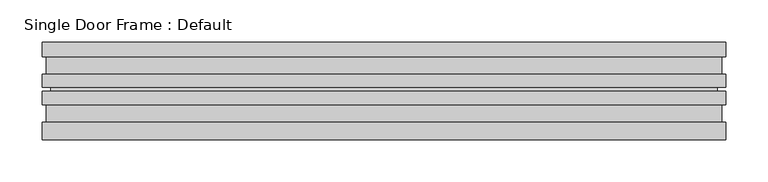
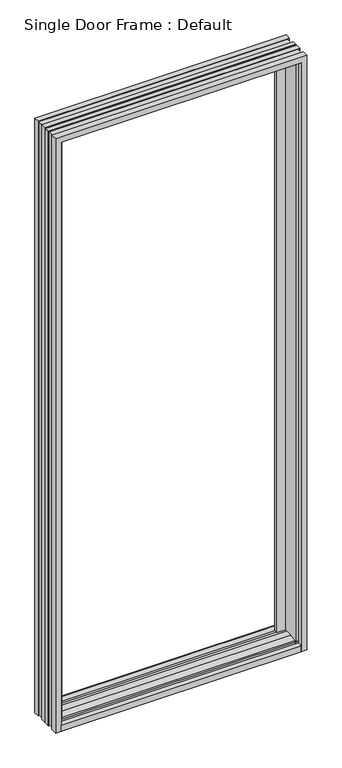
"""IFC4 building model written with IfcOpenShell, lengths in millimetres: proxy geometry, Single Door Frame : Default."""

from ifc_helpers import new_model, si_unit, frame, origin, place, context, project, spatial, polyline, circle_curve, ellipse_curve, outline, extrude, source, transform, mapped, element, save
from ifc_brep_helpers import plane_surface, revolved_surface, advanced_brep


def single_door_frame_default_a77f339c(model_context):
    return source(origin(), model_context, "Body", "SolidModel", [
        extrude(outline(polyline([(114.3, 28.575), (114.3, 0.0), (0.0, 0.0), (0.0, 20.6375), (14.2875, 22.225), (14.2875, 28.575), (19.05, 30.1625), (41.275, 34.925), (65.0875, 34.925), (73.025, 36.5125), (80.9625, 36.5125), (103.1875, 34.925), (114.3, 28.575)])), frame((-387.35, 0.0, 0.0), z_axis=(1.0, 0.0, 0.0), x_axis=(0.0, 1.0, 0.0)), (0.0, 0.0, 1.0), 774.7),
        advanced_brep(
        [(-387.35, 0.0, 0.0), (-406.4, 0.0, 0.0), (-406.4, 20.6375, 0.0), (-405.209375, 20.6375, 0.0), (-403.621875, 17.4625, 0.0), (-401.6375, 17.4625, 0.0), (-401.6375, 44.45, 0.0), (-403.621875, 44.45, 0.0), (-405.209375, 41.275, 0.0), (-406.4, 41.275, 0.0), (-406.4, 57.15, 0.0), (-404.8125, 57.15, 0.0), (-404.8125, 61.9125, 0.0), (-406.4, 61.9125, 0.0), (-406.4, 77.7875, 0.0), (-405.209375, 77.7875, 0.0), (-403.621875, 74.6125, 0.0), (-401.6375, 74.6125, 0.0), (-401.6375, 101.6, 0.0), (-403.621875, 101.6, 0.0), (-405.209375, 98.425, 0.0), (-406.4, 98.425, 0.0), (-406.4, 115.8875, 0.0), (-377.825, 115.8875, 0.0), (-377.825, 82.55, 0.0), (-349.25, 82.55, 0.0), (-349.25, 69.85, 0.0), (-377.825, 69.85, 0.0), (-377.825, 14.2875, 0.0), (-387.35, 14.2875, 0.0), (-387.35, 0.0, 2012.95), (387.35, 0.0, 2012.95), (387.35, 0.0, 0.0), (406.4, 0.0, 0.0), (406.4, 0.0, 2032.0), (-406.4, 0.0, 2032.0), (-406.4, 115.8875, 2032.0), (406.4, 115.8875, 2032.0), (406.4, 115.8875, 0.0), (377.825, 115.8875, 0.0), (377.825, 115.8875, 2003.425), (-377.825, 115.8875, 2003.425), (-377.825, 82.55, 2003.425), (377.825, 82.55, 2003.425), (377.825, 82.55, 0.0), (349.25, 82.55, 0.0), (349.25, 82.55, 1974.85), (-349.25, 82.55, 1974.85), (-349.25, 69.85, 1974.85), (349.25, 69.85, 1974.85), (349.25, 69.85, 0.0), (377.825, 69.85, 0.0), (377.825, 69.85, 2003.425), (-377.825, 69.85, 2003.425), (-377.825, 14.2875, 2003.425), (377.825, 14.2875, 2003.425), (377.825, 14.2875, 0.0), (387.35, 14.2875, 0.0), (387.35, 14.2875, 2012.95), (-387.35, 14.2875, 2012.95), (406.4, 98.425, 0.0), (405.209375, 98.425, 0.0), (403.621875, 101.6, 0.0), (401.6375, 101.6, 0.0), (401.6375, 74.6125, 0.0), (403.621875, 74.6125, 0.0), (405.209375, 77.7875, 0.0), (406.4, 77.7875, 0.0), (406.4, 61.9125, 0.0), (404.8125, 61.9125, 0.0), (404.8125, 57.15, 0.0), (406.4, 57.15, 0.0), (406.4, 41.275, 0.0), (405.209375, 41.275, 0.0), (403.621875, 44.45, 0.0), (401.6375, 44.45, 0.0), (401.6375, 17.4625, 0.0), (403.621875, 17.4625, 0.0), (405.209375, 20.6375, 0.0), (406.4, 20.6375, 0.0), (-406.4, 20.6375, 2032.0), (406.4, 20.6375, 2032.0), (405.209375, 20.6375, 2030.809375), (-405.209375, 20.6375, 2030.809375), (-403.621875, 17.4625, 2029.221875), (403.621875, 17.4625, 2029.221875), (401.6375, 17.4625, 2027.2375), (-401.6375, 17.4625, 2027.2375), (-401.6375, 44.45, 2027.2375), (401.6375, 44.45, 2027.2375), (403.621875, 44.45, 2029.221875), (-403.621875, 44.45, 2029.221875), (-405.209375, 41.275, 2030.809375), (405.209375, 41.275, 2030.809375), (406.4, 41.275, 2032.0), (-406.4, 41.275, 2032.0), (-406.4, 57.15, 2032.0), (406.4, 57.15, 2032.0), (404.8125, 57.15, 2030.4125), (-404.8125, 57.15, 2030.4125), (-404.8125, 61.9125, 2030.4125), (404.8125, 61.9125, 2030.4125), (406.4, 61.9125, 2032.0), (-406.4, 61.9125, 2032.0), (-406.4, 77.7875, 2032.0), (406.4, 77.7875, 2032.0), (405.209375, 77.7875, 2030.809375), (-405.209375, 77.7875, 2030.809375), (-403.621875, 74.6125, 2029.221875), (403.621875, 74.6125, 2029.221875), (401.6375, 74.6125, 2027.2375), (-401.6375, 74.6125, 2027.2375), (-401.6375, 101.6, 2027.2375), (401.6375, 101.6, 2027.2375), (403.621875, 101.6, 2029.221875), (-403.621875, 101.6, 2029.221875), (-405.209375, 98.425, 2030.809375), (405.209375, 98.425, 2030.809375), (406.4, 98.425, 2032.0), (-406.4, 98.425, 2032.0)],
        [
            (0, 1),
            (1, 2),
            (2, 3),
            (3, 4),
            (4, 5),
            (5, 6),
            (6, 7),
            (7, 8),
            (8, 9),
            (9, 10),
            (10, 11),
            (11, 12, circle_curve(frame((-400.688054, 59.53125, 0.0), z_axis=(0.0, 0.0, 1.0), x_axis=(-1.0, 0.0, 0.0)), 4.7625)),
            (12, 13),
            (13, 14),
            (14, 15),
            (15, 16),
            (16, 17),
            (17, 18),
            (18, 19),
            (19, 20),
            (20, 21),
            (21, 22),
            (22, 23),
            (23, 24),
            (24, 25),
            (25, 26),
            (26, 27),
            (27, 28),
            (28, 29),
            (29, 0),
            (0, 30),
            (30, 31),
            (31, 32),
            (32, 33),
            (33, 34),
            (34, 35),
            (35, 1),
            (22, 36),
            (36, 37),
            (37, 38),
            (38, 39),
            (39, 40),
            (40, 41),
            (41, 23),
            (41, 42),
            (42, 24),
            (42, 43),
            (43, 44),
            (44, 45),
            (45, 46),
            (46, 47),
            (47, 25),
            (47, 48),
            (48, 26),
            (48, 49),
            (49, 50),
            (50, 51),
            (51, 52),
            (52, 53),
            (53, 27),
            (53, 54),
            (54, 28),
            (54, 55),
            (55, 56),
            (56, 57),
            (57, 58),
            (58, 59),
            (59, 29),
            (59, 30),
            (40, 43),
            (46, 49),
            (52, 55),
            (58, 31),
            (39, 44),
            (45, 50),
            (51, 56),
            (57, 32),
            (38, 60),
            (60, 61),
            (61, 62),
            (62, 63),
            (63, 64),
            (64, 65),
            (65, 66),
            (66, 67),
            (67, 68),
            (68, 69),
            (69, 70, circle_curve(frame((400.688054, 59.53125, 0.0), z_axis=(0.0, 0.0, 1.0), x_axis=(1.0, 0.0, 0.0)), 4.7625)),
            (70, 71),
            (71, 72),
            (72, 73),
            (73, 74),
            (74, 75),
            (75, 76),
            (76, 77),
            (77, 78),
            (78, 79),
            (79, 33),
            (35, 80),
            (80, 2),
            (80, 81),
            (81, 79),
            (78, 82),
            (82, 83),
            (83, 3),
            (83, 84),
            (84, 4),
            (84, 85),
            (85, 77),
            (76, 86),
            (86, 87),
            (87, 5),
            (87, 88),
            (88, 6),
            (88, 89),
            (89, 75),
            (74, 90),
            (90, 91),
            (91, 7),
            (91, 92),
            (92, 8),
            (92, 93),
            (93, 73),
            (72, 94),
            (94, 95),
            (95, 9),
            (95, 96),
            (96, 10),
            (96, 97),
            (97, 71),
            (70, 98),
            (98, 99),
            (99, 11),
            (99, 100, ellipse_curve(frame((-400.688054, 59.53125, 2026.288054), z_axis=(0.7071067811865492, 0.0, 0.7071067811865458), x_axis=(-0.7071067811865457, 0.0, 0.7071067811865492)), 6.7351921, 4.7625)),
            (100, 12),
            (100, 101),
            (101, 69),
            (68, 102),
            (102, 103),
            (103, 13),
            (103, 104),
            (104, 14),
            (104, 105),
            (105, 67),
            (66, 106),
            (106, 107),
            (107, 15),
            (107, 108),
            (108, 16),
            (108, 109),
            (109, 65),
            (64, 110),
            (110, 111),
            (111, 17),
            (111, 112),
            (112, 18),
            (112, 113),
            (113, 63),
            (62, 114),
            (114, 115),
            (115, 19),
            (115, 116),
            (116, 20),
            (116, 117),
            (117, 61),
            (60, 118),
            (118, 119),
            (119, 21),
            (119, 36),
            (34, 81),
            (82, 85),
            (86, 89),
            (90, 93),
            (94, 97),
            (98, 101, ellipse_curve(frame((400.688054, 59.53125, 2026.288054), z_axis=(0.7071067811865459, 0.0, -0.7071067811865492), x_axis=(0.707106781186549, 0.0, 0.7071067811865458)), 6.7351921, 4.7625)),
            (102, 105),
            (106, 109),
            (110, 113),
            (114, 117),
            (118, 37),
        ],
        [
            plane_surface(frame((-406.4, 0.0, 0.0), z_axis=(0.0, 0.0, -1.0), x_axis=(0.0, -1.0, 0.0))),
            plane_surface(frame((-387.35, 0.0, 0.0), z_axis=(0.0, -1.0, 0.0), x_axis=(0.0, 0.0, 1.0))),
            plane_surface(frame((-406.4, 115.8875, 0.0), z_axis=(0.0, 1.0, 0.0), x_axis=(0.0, 0.0, 1.0))),
            plane_surface(frame((-377.825, 115.8875, 0.0), z_axis=(1.0, 0.0, 0.0), x_axis=(0.0, 0.0, 1.0))),
            plane_surface(frame((-377.825, 82.55, 0.0), z_axis=(0.0, 1.0, 0.0), x_axis=(0.0, 0.0, 1.0))),
            plane_surface(frame((-349.25, 82.55, 0.0), z_axis=(1.0, 0.0, 0.0), x_axis=(0.0, 0.0, 1.0))),
            plane_surface(frame((-349.25, 69.85, 0.0), z_axis=(0.0, -1.0, 0.0), x_axis=(0.0, 0.0, 1.0))),
            plane_surface(frame((-377.825, 69.85, 0.0), z_axis=(1.0, 0.0, 0.0), x_axis=(0.0, 0.0, 1.0))),
            plane_surface(frame((-377.825, 14.2875, 0.0), z_axis=(0.0, -1.0, 0.0), x_axis=(0.0, 0.0, 1.0))),
            plane_surface(frame((-387.35, 14.2875, 0.0), z_axis=(1.0, 0.0, 0.0), x_axis=(0.0, 0.0, 1.0))),
            plane_surface(frame((-377.825, 115.8875, 2003.425), z_axis=(0.0, 0.0, -1.0), x_axis=(1.0, 0.0, 0.0))),
            plane_surface(frame((-349.25, 82.55, 1974.85), z_axis=(0.0, 0.0, -1.0), x_axis=(1.0, 0.0, 0.0))),
            plane_surface(frame((-377.825, 69.85, 2003.425), z_axis=(0.0, 0.0, -1.0), x_axis=(1.0, 0.0, 0.0))),
            plane_surface(frame((-387.35, 14.2875, 2012.95), z_axis=(0.0, 0.0, -1.0), x_axis=(1.0, 0.0, 0.0))),
            plane_surface(frame((377.825, 115.8875, 2003.425), z_axis=(-1.0, 0.0, 0.0), x_axis=(0.0, 0.0, -1.0))),
            plane_surface(frame((349.25, 82.55, 1974.85), z_axis=(-1.0, 0.0, 0.0), x_axis=(0.0, 0.0, -1.0))),
            plane_surface(frame((377.825, 69.85, 2003.425), z_axis=(-1.0, 0.0, 0.0), x_axis=(0.0, 0.0, -1.0))),
            plane_surface(frame((387.35, 14.2875, 2012.95), z_axis=(-1.0, 0.0, 0.0), x_axis=(0.0, 0.0, -1.0))),
            plane_surface(frame((406.4, 0.0, 0.0), z_axis=(0.0, 0.0, -1.0), x_axis=(0.0, -1.0, 0.0))),
            plane_surface(frame((-406.4, 0.0, 0.0), z_axis=(-1.0, 0.0, 0.0), x_axis=(0.0, 0.0, 1.0))),
            plane_surface(frame((-406.4, 20.6375, 0.0), z_axis=(0.0, 1.0, 0.0), x_axis=(0.0, 0.0, 1.0))),
            plane_surface(frame((-405.209375, 20.6375, 0.0), z_axis=(0.8944271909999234, 0.4472135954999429, 0.0), x_axis=(0.0, 0.0, 1.0))),
            plane_surface(frame((-403.621875, 17.4625, 0.0), z_axis=(0.0, 1.0, 0.0), x_axis=(0.0, 0.0, 1.0))),
            plane_surface(frame((-401.6375, 17.4625, 0.0), z_axis=(-1.0, 0.0, 0.0), x_axis=(0.0, 0.0, 1.0))),
            plane_surface(frame((-401.6375, 44.45, 0.0), z_axis=(0.0, -1.0, 0.0), x_axis=(0.0, 0.0, 1.0))),
            plane_surface(frame((-403.621875, 44.45, 0.0), z_axis=(0.8944271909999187, -0.44721359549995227, 0.0), x_axis=(0.0, 0.0, 1.0))),
            plane_surface(frame((-405.209375, 41.275, 0.0), z_axis=(0.0, -1.0, 0.0), x_axis=(0.0, 0.0, 1.0))),
            plane_surface(frame((-406.4, 41.275, 0.0), z_axis=(-1.0, 0.0, 0.0), x_axis=(0.0, 0.0, 1.0))),
            plane_surface(frame((-406.4, 57.15, 0.0), z_axis=(0.0, 1.0, 0.0), x_axis=(0.0, 0.0, 1.0))),
            revolved_surface(polyline([(-405.450554, 59.53125, 2031.0505540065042), (-405.450554, 59.53125, 0.0)]), (-400.688054, 59.53125, 0.0), (0.0, 0.0, 1.0)),
            plane_surface(frame((-404.8125, 61.9125, 0.0), z_axis=(0.0, -1.0, 0.0), x_axis=(0.0, 0.0, 1.0))),
            plane_surface(frame((-406.4, 61.9125, 0.0), z_axis=(-1.0, 0.0, 0.0), x_axis=(0.0, 0.0, 1.0))),
            plane_surface(frame((-406.4, 77.7875, 0.0), z_axis=(0.0, 1.0, 0.0), x_axis=(0.0, 0.0, 1.0))),
            plane_surface(frame((-405.209375, 77.7875, 0.0), z_axis=(0.8944271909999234, 0.4472135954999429, 0.0), x_axis=(0.0, 0.0, 1.0))),
            plane_surface(frame((-403.621875, 74.6125, 0.0), z_axis=(0.0, 1.0, 0.0), x_axis=(0.0, 0.0, 1.0))),
            plane_surface(frame((-401.6375, 74.6125, 0.0), z_axis=(-1.0, 0.0, 0.0), x_axis=(0.0, 0.0, 1.0))),
            plane_surface(frame((-401.6375, 101.6, 0.0), z_axis=(0.0, -1.0, 0.0), x_axis=(0.0, 0.0, 1.0))),
            plane_surface(frame((-403.621875, 101.6, 0.0), z_axis=(0.8944271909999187, -0.44721359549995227, 0.0), x_axis=(0.0, 0.0, 1.0))),
            plane_surface(frame((-405.209375, 98.425, 0.0), z_axis=(0.0, -1.0, 0.0), x_axis=(0.0, 0.0, 1.0))),
            plane_surface(frame((-406.4, 98.425, 0.0), z_axis=(-1.0, 0.0, 0.0), x_axis=(0.0, 0.0, 1.0))),
            plane_surface(frame((-406.4, 0.0, 2032.0), z_axis=(0.0, 0.0, 1.0), x_axis=(1.0, 0.0, 0.0))),
            plane_surface(frame((-405.209375, 20.6375, 2030.809375), z_axis=(0.0, 0.4472135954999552, -0.8944271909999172), x_axis=(1.0, 0.0, 0.0))),
            plane_surface(frame((-401.6375, 17.4625, 2027.2375), z_axis=(0.0, 0.0, 1.0), x_axis=(1.0, 0.0, 0.0))),
            plane_surface(frame((-403.621875, 44.45, 2029.221875), z_axis=(0.0, -0.44721359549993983, -0.894427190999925), x_axis=(1.0, 0.0, 0.0))),
            plane_surface(frame((-406.4, 41.275, 2032.0), z_axis=(0.0, 0.0, 1.0), x_axis=(1.0, 0.0, 0.0))),
            revolved_surface(polyline([(405.45055400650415, 59.53125, 2031.0505540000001), (-405.4505540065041, 59.53125, 2031.0505540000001)]), (-406.4, 59.53125, 2026.288054), (1.0, 0.0, 0.0)),
            plane_surface(frame((-406.4, 61.9125, 2032.0), z_axis=(0.0, 0.0, 1.0), x_axis=(1.0, 0.0, 0.0))),
            plane_surface(frame((-405.209375, 77.7875, 2030.809375), z_axis=(0.0, 0.4472135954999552, -0.8944271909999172), x_axis=(1.0, 0.0, 0.0))),
            plane_surface(frame((-401.6375, 74.6125, 2027.2375), z_axis=(0.0, 0.0, 1.0), x_axis=(1.0, 0.0, 0.0))),
            plane_surface(frame((-403.621875, 101.6, 2029.221875), z_axis=(0.0, -0.44721359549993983, -0.894427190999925), x_axis=(1.0, 0.0, 0.0))),
            plane_surface(frame((-406.4, 98.425, 2032.0), z_axis=(0.0, 0.0, 1.0), x_axis=(1.0, 0.0, 0.0))),
            plane_surface(frame((406.4, 0.0, 2032.0), z_axis=(1.0, 0.0, 0.0), x_axis=(0.0, 0.0, -1.0))),
            plane_surface(frame((405.209375, 20.6375, 2030.809375), z_axis=(-0.8944271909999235, 0.4472135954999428, 0.0), x_axis=(0.0, 0.0, -1.0))),
            plane_surface(frame((401.6375, 17.4625, 2027.2375), z_axis=(1.0, 0.0, 0.0), x_axis=(0.0, 0.0, -1.0))),
            plane_surface(frame((403.621875, 44.45, 2029.221875), z_axis=(-0.8944271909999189, -0.44721359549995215, 0.0), x_axis=(0.0, 0.0, -1.0))),
            plane_surface(frame((406.4, 41.275, 2032.0), z_axis=(1.0, 0.0, 0.0), x_axis=(0.0, 0.0, -1.0))),
            revolved_surface(polyline([(405.450554, 59.53125, 0.0), (405.450554, 59.53125, 2031.0505540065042)]), (400.688054, 59.53125, 2032.0), (0.0, 0.0, -1.0)),
            plane_surface(frame((406.4, 61.9125, 2032.0), z_axis=(1.0, 0.0, 0.0), x_axis=(0.0, 0.0, -1.0))),
            plane_surface(frame((405.209375, 77.7875, 2030.809375), z_axis=(-0.8944271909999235, 0.4472135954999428, 0.0), x_axis=(0.0, 0.0, -1.0))),
            plane_surface(frame((401.6375, 74.6125, 2027.2375), z_axis=(1.0, 0.0, 0.0), x_axis=(0.0, 0.0, -1.0))),
            plane_surface(frame((403.621875, 101.6, 2029.221875), z_axis=(-0.8944271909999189, -0.44721359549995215, 0.0), x_axis=(0.0, 0.0, -1.0))),
            plane_surface(frame((406.4, 98.425, 2032.0), z_axis=(1.0, 0.0, 0.0), x_axis=(0.0, 0.0, -1.0))),
        ],
        [
            (0, [[1, 2, 3, 4, 5, 6, 7, 8, 9, 10, 11, 12, 13, 14, 15, 16, 17, 18, 19, 20, 21, 22, 23, 24, 25, 26, 27, 28, 29, 30]]),
            (1, [[-1, 31, 32, 33, 34, 35, 36, 37]]),
            (2, [[-23, 38, 39, 40, 41, 42, 43, 44]]),
            (3, [[-24, -44, 45, 46]]),
            (4, [[-25, -46, 47, 48, 49, 50, 51, 52]]),
            (5, [[-26, -52, 53, 54]]),
            (6, [[-27, -54, 55, 56, 57, 58, 59, 60]]),
            (7, [[-28, -60, 61, 62]]),
            (8, [[-29, -62, 63, 64, 65, 66, 67, 68]]),
            (9, [[-30, -68, 69, -31]]),
            (10, [[-45, -43, 70, -47]]),
            (11, [[-53, -51, 71, -55]]),
            (12, [[-61, -59, 72, -63]]),
            (13, [[-69, -67, 73, -32]]),
            (14, [[-70, -42, 74, -48]]),
            (15, [[-71, -50, 75, -56]]),
            (16, [[-72, -58, 76, -64]]),
            (17, [[-73, -66, 77, -33]]),
            (18, [[-77, -65, -76, -57, -75, -49, -74, -41, 78, 79, 80, 81, 82, 83, 84, 85, 86, 87, 88, 89, 90, 91, 92, 93, 94, 95, 96, 97, 98, -34]]),
            (19, [[-2, -37, 99, 100]]),
            (20, [[-3, -100, 101, 102, -97, 103, 104, 105]]),
            (21, [[-4, -105, 106, 107]]),
            (22, [[-5, -107, 108, 109, -95, 110, 111, 112]]),
            (23, [[-6, -112, 113, 114]]),
            (24, [[-7, -114, 115, 116, -93, 117, 118, 119]]),
            (25, [[-8, -119, 120, 121]]),
            (26, [[-9, -121, 122, 123, -91, 124, 125, 126]]),
            (27, [[-10, -126, 127, 128]]),
            (28, [[-11, -128, 129, 130, -89, 131, 132, 133]]),
            (29, [[-12, -133, 134, 135]]),
            (30, [[-13, -135, 136, 137, -87, 138, 139, 140]]),
            (31, [[-14, -140, 141, 142]]),
            (32, [[-15, -142, 143, 144, -85, 145, 146, 147]]),
            (33, [[-16, -147, 148, 149]]),
            (34, [[-17, -149, 150, 151, -83, 152, 153, 154]]),
            (35, [[-18, -154, 155, 156]]),
            (36, [[-19, -156, 157, 158, -81, 159, 160, 161]]),
            (37, [[-20, -161, 162, 163]]),
            (38, [[-21, -163, 164, 165, -79, 166, 167, 168]]),
            (39, [[-22, -168, 169, -38]]),
            (40, [[-99, -36, 170, -101]]),
            (41, [[-106, -104, 171, -108]]),
            (42, [[-113, -111, 172, -115]]),
            (43, [[-120, -118, 173, -122]]),
            (44, [[-127, -125, 174, -129]]),
            (45, [[-134, -132, 175, -136]]),
            (46, [[-141, -139, 176, -143]]),
            (47, [[-148, -146, 177, -150]]),
            (48, [[-155, -153, 178, -157]]),
            (49, [[-162, -160, 179, -164]]),
            (50, [[-169, -167, 180, -39]]),
            (51, [[-170, -35, -98, -102]]),
            (52, [[-171, -103, -96, -109]]),
            (53, [[-172, -110, -94, -116]]),
            (54, [[-173, -117, -92, -123]]),
            (55, [[-174, -124, -90, -130]]),
            (56, [[-175, -131, -88, -137]]),
            (57, [[-176, -138, -86, -144]]),
            (58, [[-177, -145, -84, -151]]),
            (59, [[-178, -152, -82, -158]]),
            (60, [[-179, -159, -80, -165]]),
            (61, [[-180, -166, -78, -40]]),
        ],
    ),
    ])


if __name__ == "__main__":
    model = new_model("IFC4")
    model_context = context("Model", 3, world=origin())
    ifc_project = project(units=[si_unit("LENGTHUNIT", "METRE", prefix="MILLI")], contexts=[model_context])
    site = spatial("IfcSite", under=ifc_project)
    building = spatial("IfcBuilding", under=site)
    placement = place(None, origin())
    single_door_frame_default_shape = single_door_frame_default_a77f339c(model_context)
    element("IfcBuildingElementProxy", 1, Name="Single Door Frame : Default", ObjectType="Single Door Frame : Default", at=placement, inside=building, context=model_context, shape_type="MappedRepresentation", body=[
        mapped(single_door_frame_default_shape, transform((0.0, 0.0, 0.0), x_axis=(1.0, 0.0, 0.0), y_axis=(0.0, 1.0, 0.0), z_axis=(0.0, 0.0, 1.0))),
    ])
    save(model, "model.ifc")
